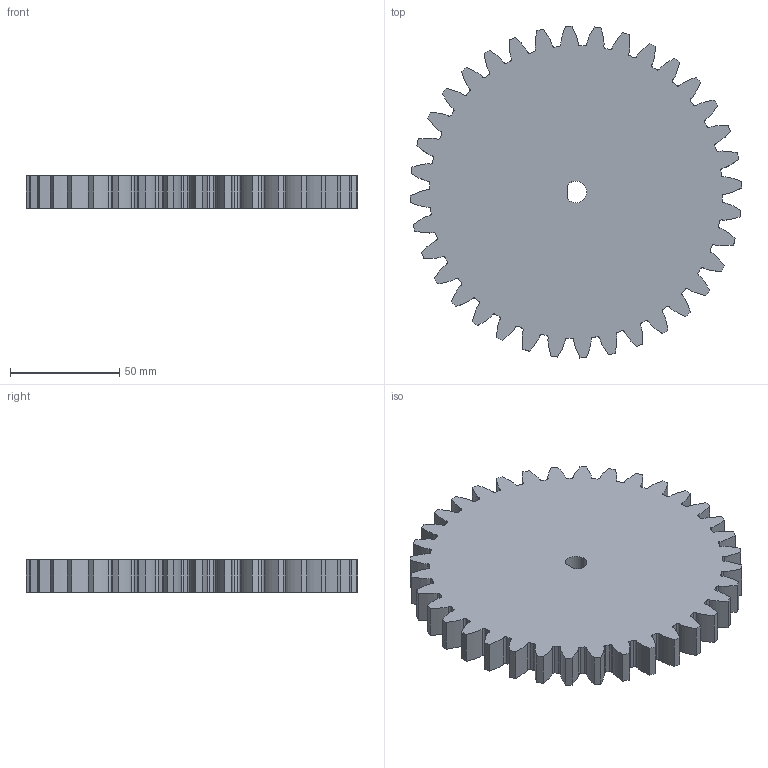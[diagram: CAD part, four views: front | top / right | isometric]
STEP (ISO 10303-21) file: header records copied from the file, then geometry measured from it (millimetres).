
FILE_DESCRIPTION (( 'STEP AP203' ), '1' );
FILE_NAME ('Pignon denture droite m=4 Z=36.STEP', '2025-09-18T12:05:31', ( '' ), ( '' ), 'SwSTEP 2.0', 'SolidWorks 2019', '' );
FILE_SCHEMA (( 'CONFIG_CONTROL_DESIGN' ));
Length unit declared in the file: millimetre
Products named in the file (1): Pignon denture droite m=4 Z=36
Bounding box: 151.96 x 151.96 x 15 mm (x, y, z)
Volume: 240932.2 mm3; surface area: 46132.8 mm2
Topology: 1 solids, 1 shells, 237 faces, 705 edges, 470 vertices
Faces by surface type: cylinder 162, bspline 72, plane 3
Entity records: 8904 total; most frequent: CARTESIAN_POINT 2637, ORIENTED_EDGE 1410, DIRECTION 1217, EDGE_CURVE 705, AXIS2_PLACEMENT_3D 490, VERTEX_POINT 470, CIRCLE 324, EDGE_LOOP 239
